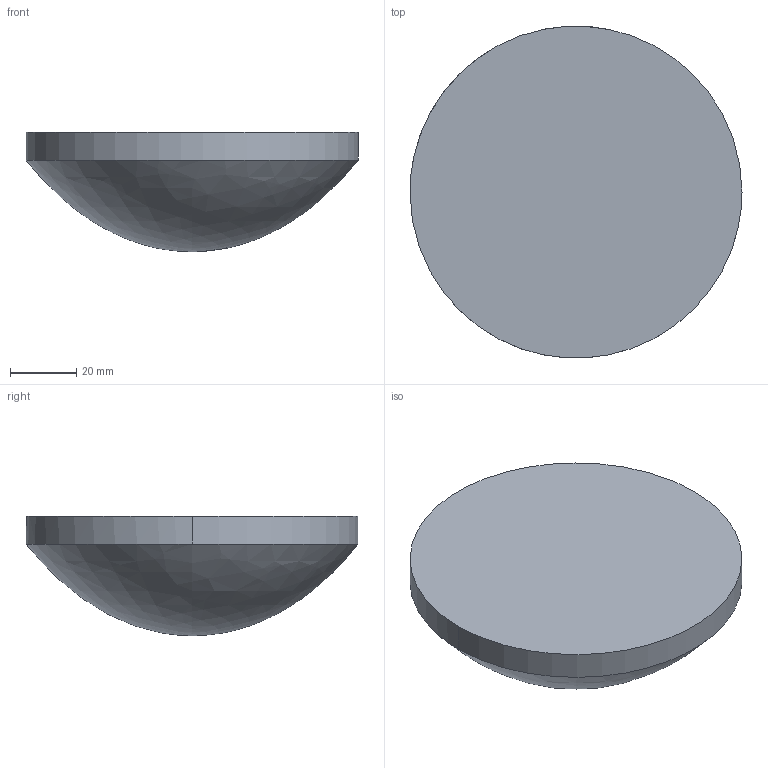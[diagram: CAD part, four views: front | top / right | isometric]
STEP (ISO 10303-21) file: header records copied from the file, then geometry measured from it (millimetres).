
FILE_DESCRIPTION ((), '1');
FILE_NAME ('\\fileserver\Daten\Applikationen\Optikdesign\SPA-Design\aktuelle SPA-Designs\Linsenkataloge - 2016-Juni\Zemax\ALL\ALL100-100.STP', '2016-05-24T14:22:01', ('Unknown'), ('Unknown'), 'HarmonyWare STEP v2.0.1', 'HarmonyWare Translators', '');
FILE_SCHEMA (('CONFIG_CONTROL_DESIGN'));
Length unit declared in the file: millimetre
Products named in the file (1): NONE
Bounding box: 100 x 99.9 x 36 mm (x, y, z)
Volume: 179057.2 mm3; surface area: 20536.9 mm2
Topology: 1 solids, 1 shells, 4 faces, 9 edges, 6 vertices
Faces by surface type: cylinder 2, bspline 1, plane 1
Entity records: 365 total; most frequent: CARTESIAN_POINT 214, ORIENTED_EDGE 16, EDGE_CURVE 8, PERSON 8, ORGANIZATION 8, PERSON_AND_ORGANIZATION 8, VERTEX_POINT 6, DIRECTION 6
